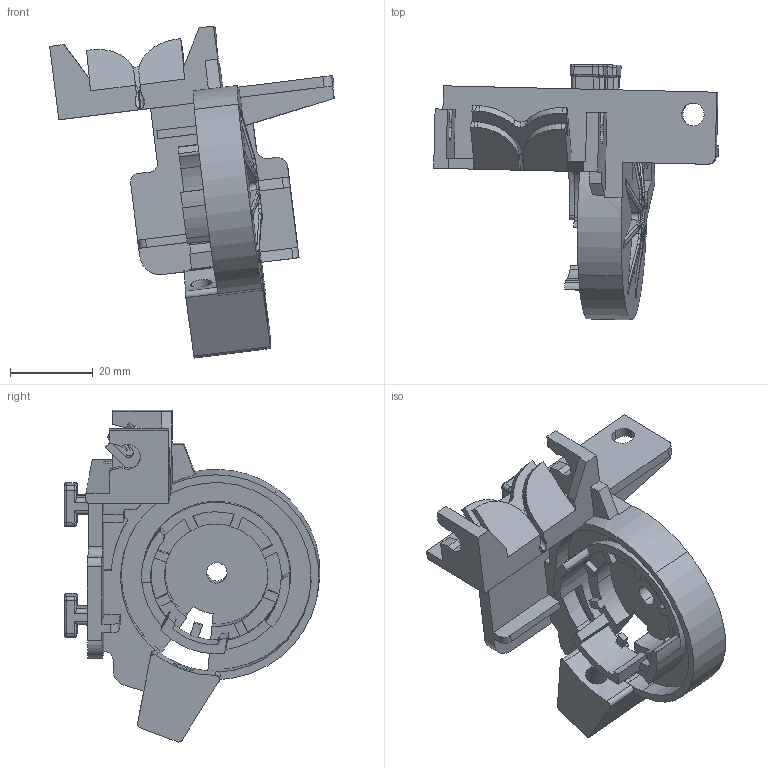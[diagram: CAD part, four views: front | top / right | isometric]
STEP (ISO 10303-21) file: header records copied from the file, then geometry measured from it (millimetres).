
FILE_DESCRIPTION(('CATIA V5 STEP Exchange'),'2;1');
FILE_NAME('G:\够快云库\系统集成开发部\1.部门成员\孙国\3D-stp打印件\20211216\SHT0010362-1216 底座.stp','2021-12-16T06:42:41+00:00',('none'),('none'),'CATIA Version 5 Release 20 GA (IN-10)','CATIA V5 STEP AP214','none');
FILE_SCHEMA(('AUTOMOTIVE_DESIGN { 1 0 10303 214 1 1 1 1 }'));
Length unit declared in the file: millimetre
Products named in the file (1): SHT0010362
Bounding box: 68.91 x 61.93 x 80.4 mm (x, y, z)
Volume: 30335.8 mm3; surface area: 19546.1 mm2
Topology: 1 solids, 1 shells, 487 faces, 1364 edges, 878 vertices
Faces by surface type: plane 191, cylinder 163, bspline 88, torus 20, cone 12, extrusion 10, revolution 3
Entity records: 20116 total; most frequent: CARTESIAN_POINT 8888, ORIENTED_EDGE 2728, DIRECTION 1646, EDGE_CURVE 1364, VERTEX_POINT 878, AXIS2_PLACEMENT_3D 641, VECTOR 636, LINE 626
